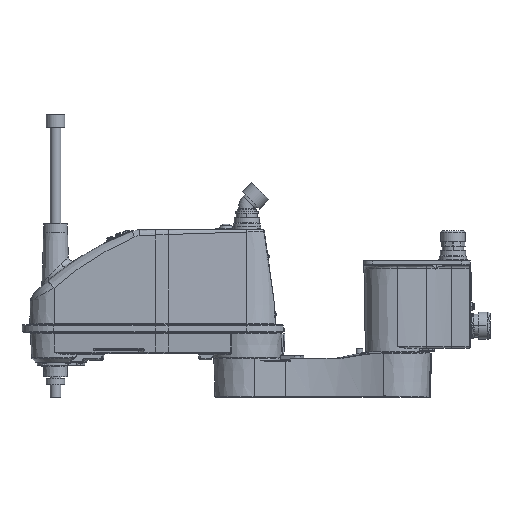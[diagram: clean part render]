
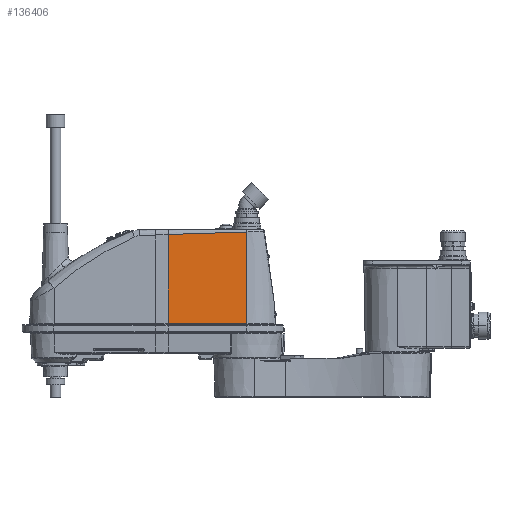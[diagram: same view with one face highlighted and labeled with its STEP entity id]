
A CAD part, top view. The second image highlights one B-rep face of the part: STEP entity #136406.
In plain terms, the highlighted planar face has unit normal (0, 0.035, 0.999).
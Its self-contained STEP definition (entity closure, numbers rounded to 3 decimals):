
#92642=DIRECTION('',(0.,-0.999,0.035));
#92643=VECTOR('',#92642,209.277);
#92644=CARTESIAN_POINT('',(-535.123,62.045,
69.002));
#92645=LINE('',#92644,#92643);
#93261=DIRECTION('',(-1.,0.,0.));
#93262=VECTOR('',#93261,185.123);
#93263=CARTESIAN_POINT('',(-350.,-147.105,76.305));
#93264=LINE('',#93263,#93262);
#93265=CARTESIAN_POINT('',(-535.123,62.045,
69.002));
#93266=CARTESIAN_POINT('',(-525.944,62.44,
68.988));
#93267=CARTESIAN_POINT('',(-508.634,63.19,
68.962));
#93268=CARTESIAN_POINT('',(-484.182,64.181,
68.927));
#93269=CARTESIAN_POINT('',(-462.523,65.005,
68.898));
#93270=CARTESIAN_POINT('',(-443.123,65.682,
68.875));
#93271=CARTESIAN_POINT('',(-425.367,66.243,
68.855));
#93272=CARTESIAN_POINT('',(-408.797,66.707,
68.839));
#93273=CARTESIAN_POINT('',(-393.142,67.085,
68.826));
#93274=CARTESIAN_POINT('',(-378.227,67.387,
68.815));
#93275=CARTESIAN_POINT('',(-363.926,67.612,
68.807));
#93276=CARTESIAN_POINT('',(-354.585,67.729,
68.803));
#93277=CARTESIAN_POINT('',(-350.,67.772,
68.802));
#93279=DIRECTION('',(0.,-0.999,0.035));
#93280=VECTOR('',#93279,215.007);
#93281=CARTESIAN_POINT('',(-350.,67.772,
68.802));
#93282=LINE('',#93281,#93280);
#93288=CARTESIAN_POINT('',(-350.,67.772,
68.802));
#101638=CARTESIAN_POINT('',(-350.,-147.105,76.305));
#101639=VERTEX_POINT('',#101638);
#101640=CARTESIAN_POINT('',(-535.123,-147.105,
76.305));
#101641=VERTEX_POINT('',#101640);
#101659=VERTEX_POINT('',#93288);
#101665=CARTESIAN_POINT('',(-535.123,62.045,
69.002));
#101666=VERTEX_POINT('',#101665);
#136394=CARTESIAN_POINT('',(-442.562,-39.666,
72.553));
#136395=DIRECTION('',(0.,0.035,0.999));
#136396=DIRECTION('',(-1.,0.,0.));
#136397=AXIS2_PLACEMENT_3D('',#136394,#136395,#136396);
#136398=PLANE('',#136397);
#136399=ORIENTED_EDGE('',*,*,#136381,.T.);
#136400=ORIENTED_EDGE('',*,*,#134888,.F.);
#136401=ORIENTED_EDGE('',*,*,#135008,.T.);
#136403=ORIENTED_EDGE('',*,*,#136402,.T.);
#136404=EDGE_LOOP('',(#136399,#136400,#136401,#136403));
#136405=FACE_OUTER_BOUND('',#136404,.F.);
#93278=B_SPLINE_CURVE_WITH_KNOTS('',3,(#93265,#93266,#93267,#93268,#93269,
#93270,#93271,#93272,#93273,#93274,#93275,#93276,#93277),.UNSPECIFIED.,.F.,.F.,(
4,1,1,1,1,1,1,1,1,1,4),(0.,0.149,0.281,
0.396,0.5,0.595,0.684,
0.768,0.849,0.926,1.),.UNSPECIFIED.);
#134888=EDGE_CURVE('',#101666,#101641,#92645,.T.);
#135008=EDGE_CURVE('',#101666,#101659,#93278,.T.);
#136381=EDGE_CURVE('',#101639,#101641,#93264,.T.);
#136402=EDGE_CURVE('',#101659,#101639,#93282,.T.);
#136406=ADVANCED_FACE('',(#136405),#136398,.T.);
